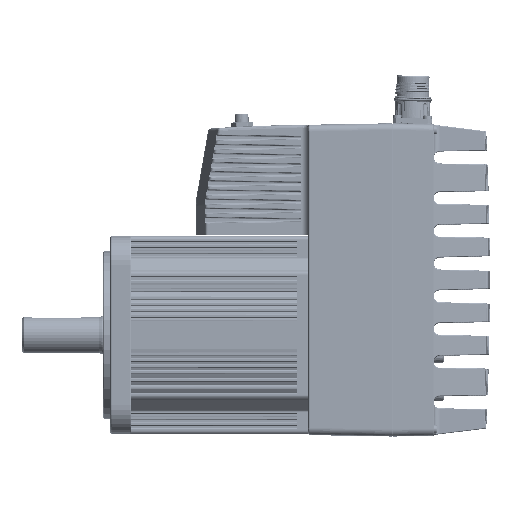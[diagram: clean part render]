
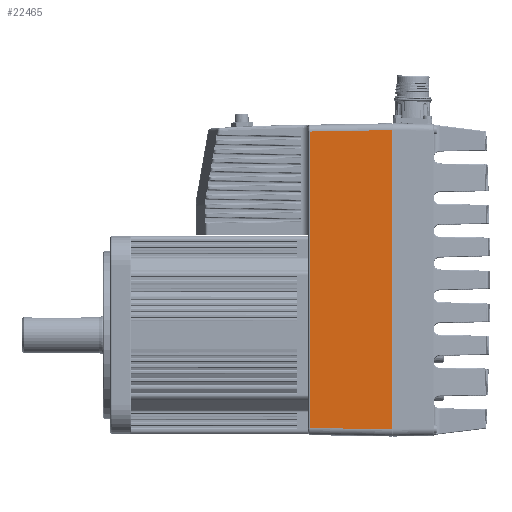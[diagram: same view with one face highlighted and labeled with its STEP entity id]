
A CAD part, top view. The second image highlights one B-rep face of the part: STEP entity #22465.
In plain terms, the highlighted planar face has unit normal (-0.018, 0, 1) as drawn and (1, 0, 0.017) by its records, which use the part's own axes.
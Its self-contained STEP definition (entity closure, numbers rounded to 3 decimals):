
#2267=CARTESIAN_POINT('',(67.497,-61.997,
0.197));
#2287=DIRECTION('',(0.,-1.,0.));
#2288=VECTOR('',#2287,196.495);
#2289=CARTESIAN_POINT('',(67.497,134.497,0.197));
#2290=LINE('',#2289,#2288);
#2426=CARTESIAN_POINT('',(66.552,133.553,54.317));
#2453=DIRECTION('',(0.017,-0.017,-1.));
#2454=VECTOR('',#2453,54.137);
#2455=CARTESIAN_POINT('',(66.552,-61.053,54.317));
#2456=LINE('',#2455,#2454);
#2460=DIRECTION('',(-0.017,-0.017,1.));
#2461=VECTOR('',#2460,54.137);
#2462=CARTESIAN_POINT('',(67.497,134.497,0.197));
#2463=LINE('',#2462,#2461);
#3827=DIRECTION('',(0.,1.,0.));
#3828=VECTOR('',#3827,194.605);
#3829=CARTESIAN_POINT('',(66.552,-61.053,54.317));
#3830=LINE('',#3829,#3828);
#18487=VERTEX_POINT('',#2267);
#19360=VERTEX_POINT('',#2426);
#19582=CARTESIAN_POINT('',(67.497,134.497,
0.197));
#19583=VERTEX_POINT('',#19582);
#20079=CARTESIAN_POINT('',(66.552,-61.053,
54.317));
#20080=VERTEX_POINT('',#20079);
#22452=CARTESIAN_POINT('',(67.5,139.,0.));
#22453=DIRECTION('',(1.,0.,0.017));
#22454=DIRECTION('',(0.017,0.,-1.));
#22455=AXIS2_PLACEMENT_3D('',#22452,#22453,#22454);
#22456=PLANE('',#22455);
#22458=ORIENTED_EDGE('',*,*,#22457,.F.);
#22460=ORIENTED_EDGE('',*,*,#22459,.T.);
#22461=ORIENTED_EDGE('',*,*,#22441,.F.);
#22462=ORIENTED_EDGE('',*,*,#22370,.T.);
#22463=EDGE_LOOP('',(#22458,#22460,#22461,#22462));
#22464=FACE_OUTER_BOUND('',#22463,.F.);
#22370=EDGE_CURVE('',#19583,#18487,#2290,.T.);
#22441=EDGE_CURVE('',#19583,#19360,#2463,.T.);
#22457=EDGE_CURVE('',#20080,#18487,#2456,.T.);
#22459=EDGE_CURVE('',#20080,#19360,#3830,.T.);
#22465=ADVANCED_FACE('',(#22464),#22456,.T.);
